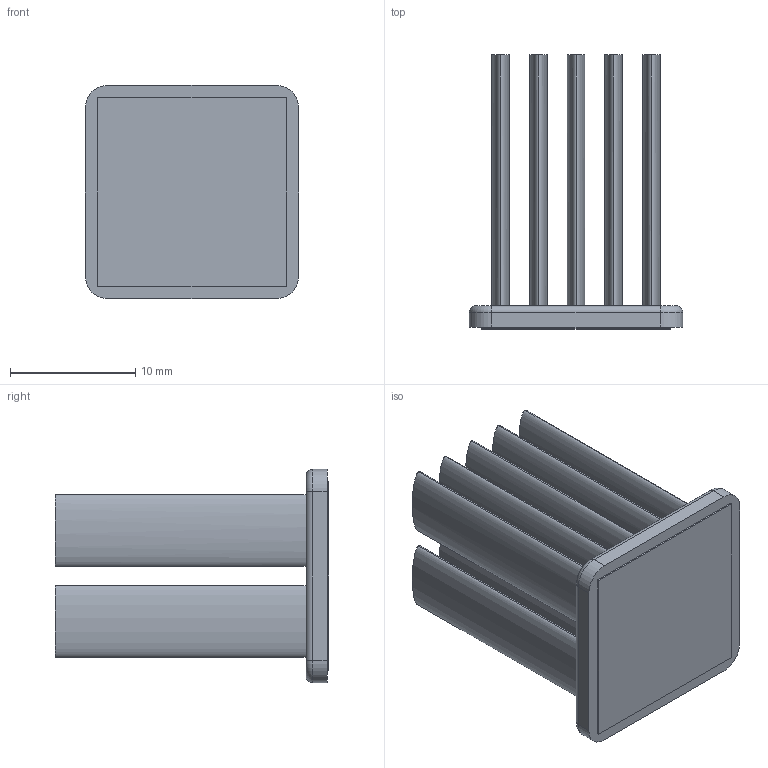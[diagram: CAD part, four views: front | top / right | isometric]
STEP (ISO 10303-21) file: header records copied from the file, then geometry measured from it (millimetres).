
FILE_DESCRIPTION (( 'STEP AP214' ), '1' );
FILE_NAME ('INM17001-22W-1.7.STEP', '2023-03-01T23:07:59', ( '' ), ( '' ), 'SwSTEP 2.0', 'SolidWorks 2020', '' );
FILE_SCHEMA (( 'AUTOMOTIVE_DESIGN' ));
Length unit declared in the file: millimetre
Products named in the file (1): INM17001-22W-1.7
Bounding box: 17 x 21.83 x 17 mm (x, y, z)
Volume: 1765.3 mm3; surface area: 3566.5 mm2
Topology: 2 solids, 2 shells, 54 faces, 112 edges, 72 vertices
Faces by surface type: plane 22, bspline 20, cylinder 8, torus 4
Entity records: 2109 total; most frequent: CARTESIAN_POINT 499, ORIENTED_EDGE 224, DIRECTION 162, EDGE_CURVE 112, VERTEX_POINT 72, EDGE_LOOP 64, UNCERTAINTY_MEASURE_WITH_UNIT 58, SURFACE_STYLE_USAGE 57
